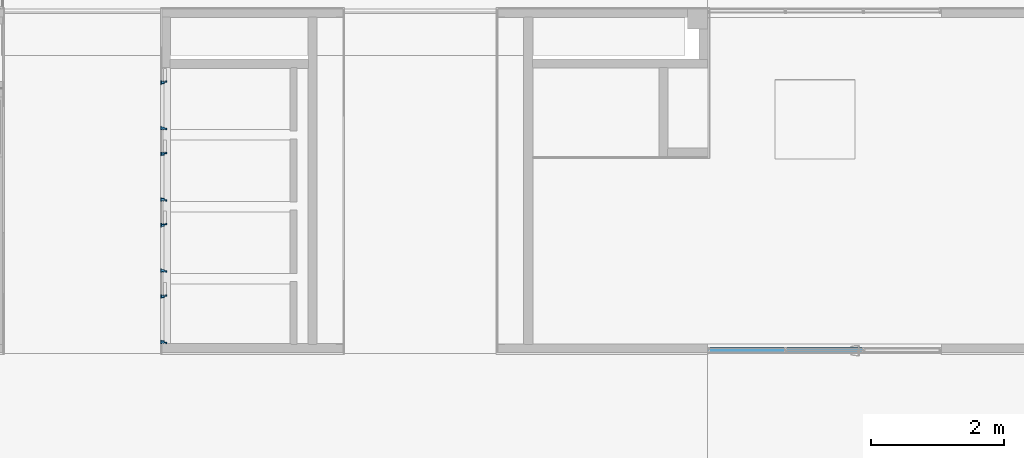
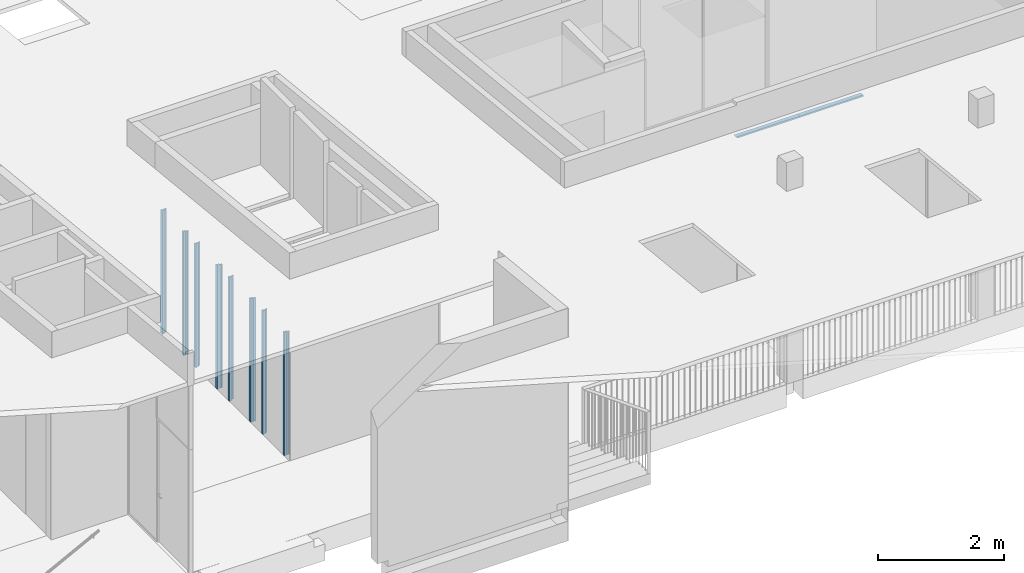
# One storey, part 4 of 43: 10 members, 2 elements without a shape of their own.
"""IFC2X3 building model written with IfcOpenShell, lengths in millimetres."""

from ifc_helpers import new_model, entity, si_unit, converted_unit, derived_unit, money_unit, direction, frame, origin_with_axes, place, context, subcontext, project, spatial, faceted_brep, source, transform, mapped, material, material_list, type_object, element, aggregate, save


model = new_model("IFC2X3")

# Units and contexts
model_context = context("Model", 3, precision=0.01, world=origin_with_axes(), true_north=direction((0.0, 1.0)))
body_context = subcontext(model_context, "Body", "Model", "MODEL_VIEW")
ifc_project = project(units=[si_unit("LENGTHUNIT", "METRE", prefix="MILLI"), si_unit("AREAUNIT", "SQUARE_METRE"), si_unit("VOLUMEUNIT", "CUBIC_METRE"), converted_unit("PLANEANGLEUNIT", "DEGREE", entity("IfcPlaneAngleMeasure", 0.0174532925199), si_unit("PLANEANGLEUNIT", "RADIAN"), dimensions=[0, 0, 0, 0, 0, 0, 0]), si_unit("SOLIDANGLEUNIT", "STERADIAN"), money_unit("EUR"), converted_unit("TIMEUNIT", "Year", entity("IfcTimeMeasure", 31556926.0), si_unit("TIMEUNIT", "SECOND"), dimensions=[0, 0, 1, 0, 0, 0, 0]), si_unit("MASSUNIT", "GRAM", prefix="KILO"), si_unit("THERMODYNAMICTEMPERATUREUNIT", "DEGREE_CELSIUS"), si_unit("LUMINOUSINTENSITYUNIT", "LUMEN"), si_unit("ENERGYUNIT", "JOULE", prefix="MEGA"), derived_unit("THERMALCONDUCTANCEUNIT", [(si_unit("POWERUNIT", "WATT"), 1), (si_unit("LENGTHUNIT", "METRE"), -1), (si_unit("THERMODYNAMICTEMPERATUREUNIT", "KELVIN"), -1)]), derived_unit("SPECIFICHEATCAPACITYUNIT", [(si_unit("ENERGYUNIT", "JOULE"), 1), (si_unit("MASSUNIT", "GRAM", prefix="KILO"), -1), (si_unit("THERMODYNAMICTEMPERATUREUNIT", "KELVIN"), -1)]), derived_unit("MASSDENSITYUNIT", [(si_unit("MASSUNIT", "GRAM", prefix="KILO"), 1), (si_unit("VOLUMEUNIT", "CUBIC_METRE"), -1)])], contexts=[model_context])

# Site, building, storey
site_placement = place(None, origin_with_axes())
site = spatial("IfcSite", under=ifc_project, at=site_placement, Name="L.Koidula tn 11b", CompositionType="ELEMENT")
building_placement = place(site_placement, origin_with_axes())
building = spatial("IfcBuilding", under=site, at=building_placement, Name="Rakvere Riigigümnaasium", CompositionType="ELEMENT")
storey_placement = place(building_placement, frame((0.0, 0.0, 6665.0), z_axis=(0.0, 0.0, 1.0), x_axis=(1.0, 0.0, 0.0)))
storey = spatial("IfcBuildingStorey", under=building, at=storey_placement, Name="3.korrus +6,66", CompositionType="ELEMENT", Elevation=6665.0)

# Curtain wall, members
curtain_wall_type = type_object("IfcCurtainWallType", Name="Curtain Wall Type", PredefinedType="NOTDEFINED")
curtain_wall_1_placement = place(storey_placement, frame((49969.604162, 20812.4526887, -4.66409044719e-06), z_axis=(0.0, 0.0, 1.0), x_axis=(1.0, 0.0, 0.0)))
curtain_wall_1 = element("IfcCurtainWall", 1, at=curtain_wall_1_placement, inside=storey, type_object=curtain_wall_type, Name="SUS-03")
ifc_material_1 = material(Name="MDF")
ifc_material_2 = material(Name="Alumiiniumprofiil")
ifc_material_list_1 = material_list([ifc_material_1, ifc_material_2])
member_type_1 = type_object("IfcMemberType", Name="SA-Siseuksesüsteem-IN-P 54 x 0", PredefinedType="MULLION")
shared_shape_1 = source(origin_with_axes(), body_context, "Body", "Brep", [
    faceted_brep([(-21.9954206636, 91.9999779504, 0.0), (-41.9523206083, 91.9999779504, 0.0), (-41.9523206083, 91.9999779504, 2400.0000468), (-21.9954206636, 91.9999779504, 2400.0000468), (-21.9954206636, 81.9999773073, 0.0), (-41.9523206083, 81.9999773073, 0.0), (-41.9523206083, 81.9999773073, 2400.0000468), (-21.9954206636, 81.9999773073, 2400.0000468)], [[[0, 1, 2, 3]], [[0, 4, 5, 1]], [[1, 5, 6, 2]], [[3, 2, 6, 7]], [[4, 0, 3, 7]], [[5, 4, 7, 6]]]),
    faceted_brep([(10.0045808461, 10.0000006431, 0.0), (-41.9523206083, 10.0000006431, 0.0), (-41.9523206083, 10.0000006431, 2400.0000468), (10.0045808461, 10.0000006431, 2400.0000468), (10.0045808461, 0.0, 0.0), (-41.9523206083, 0.0, 0.0), (-41.9523206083, 0.0, 2400.0000468), (10.0045808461, 0.0, 2400.0000468)], [[[0, 1, 2, 3]], [[0, 4, 5, 1]], [[1, 5, 6, 2]], [[3, 2, 6, 7]], [[4, 0, 3, 7]], [[5, 4, 7, 6]]]),
    faceted_brep([(-41.9523206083, 77.9999781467, 0.0), (-30.4523206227, 77.9999781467, 0.0), (-30.4523206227, 77.9999781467, 2400.0000468), (-41.9523206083, 77.9999781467, 2400.0000468), (-41.9523206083, 81.4999784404, 0.0), (-21.9954206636, 81.4999784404, 0.0), (-21.9954206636, 81.9999773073, 0.0), (-21.9954206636, 91.9999779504, 0.0), (-19.9954210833, 91.9999779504, 0.0), (-19.9954210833, 53.4999993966, 0.0), (0.0, 53.4999993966, 0.0), (0.0, 12.0000002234, 0.0), (12.0045790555, 12.0000002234, 0.0), (12.0045790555, 0.0, 0.0), (10.0045808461, 0.0, 0.0), (10.0045808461, 10.0000006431, 0.0), (10.0045794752, 10.4999775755, 0.0), (-41.9523206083, 10.4999775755, 0.0), (-41.9523206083, 13.9999778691, 0.0), (-30.4523206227, 13.9999778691, 0.0), (-30.4523206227, 44.3999777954, 0.0), (-41.9523206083, 44.3999777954, 0.0), (-41.9523206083, 47.5999782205, 0.0), (-30.4523206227, 47.5999782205, 0.0), (-30.4523206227, 47.5999782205, 2400.0000468), (-41.9523206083, 47.5999782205, 2400.0000468), (-41.9523206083, 44.3999777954, 2400.0000468), (-30.4523206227, 44.3999777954, 2400.0000468), (-30.4523206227, 13.9999778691, 2400.0000468), (-41.9523206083, 13.9999778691, 2400.0000468), (-41.9523206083, 10.4999775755, 2400.0000468), (10.0045794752, 10.4999775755, 2400.0000468), (10.0045808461, 10.0000006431, 2400.0000468), (10.0045808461, 0.0, 2400.0000468), (12.0045790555, 0.0, 2400.0000468), (12.0045790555, 12.0000002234, 2400.0000468), (0.0, 12.0000002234, 2400.0000468), (0.0, 53.4999993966, 2400.0000468), (-19.9954210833, 53.4999993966, 2400.0000468), (-19.9954210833, 91.9999779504, 2400.0000468), (-21.9954206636, 91.9999779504, 2400.0000468), (-21.9954206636, 81.9999773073, 2400.0000468), (-21.9954206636, 81.4999784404, 2400.0000468), (-41.9523206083, 81.4999784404, 2400.0000468)], [[[0, 1, 2, 3]], [[0, 4, 5, 6, 7, 8, 9, 10, 11, 12, 13, 14, 15, 16, 17, 18, 19, 20, 21, 22, 23, 1]], [[1, 23, 24, 2]], [[3, 2, 24, 25, 26, 27, 28, 29, 30, 31, 32, 33, 34, 35, 36, 37, 38, 39, 40, 41, 42, 43]], [[4, 0, 3, 43]], [[5, 4, 43, 42]], [[6, 5, 42, 41]], [[7, 6, 41, 40]], [[8, 7, 40, 39]], [[9, 8, 39, 38]], [[10, 9, 38, 37]], [[11, 10, 37, 36]], [[12, 11, 36, 35]], [[13, 12, 35, 34]], [[14, 13, 34, 33]], [[15, 14, 33, 32]], [[16, 15, 32, 31]], [[17, 16, 31, 30]], [[18, 17, 30, 29]], [[19, 18, 29, 28]], [[20, 19, 28, 27]], [[21, 20, 27, 26]], [[22, 21, 26, 25]], [[23, 22, 25, 24]]]),
])
member_1_placement = place(curtain_wall_1_placement, frame((0.0, 2465.0, 0.0), z_axis=(0.0, 0.0, 1.0), x_axis=(0.0, -1.0, 0.0)))
member_1 = element("IfcMember", 2, at=member_1_placement, type_object=member_type_1, material=ifc_material_list_1, Name="Frame-SA-Siseuks-018", ObjectType="MULLION", context=body_context, shape_type="MappedRepresentation", body=[
    mapped(shared_shape_1, transform((0.0, 0.0, 0.0))),
])
member_2_placement = place(curtain_wall_1_placement, frame((0.0, 1395.0, 0.0), z_axis=(0.0, 0.0, 1.0), x_axis=(0.0, -1.0, 0.0)))
member_2 = element("IfcMember", 3, at=member_2_placement, type_object=member_type_1, material=ifc_material_list_1, Name="Frame-SA-Siseuks-018", ObjectType="MULLION", context=body_context, shape_type="MappedRepresentation", body=[
    mapped(shared_shape_1, transform((0.0, 0.0, 0.0))),
])
member_3_placement = place(curtain_wall_1_placement, frame((0.0, 325.0, 0.0), z_axis=(0.0, 0.0, 1.0), x_axis=(0.0, -1.0, 0.0)))
member_3 = element("IfcMember", 4, at=member_3_placement, type_object=member_type_1, material=ifc_material_list_1, Name="Frame-SA-Siseuks-018", ObjectType="MULLION", context=body_context, shape_type="MappedRepresentation", body=[
    mapped(shared_shape_1, transform((0.0, 0.0, 0.0))),
])
member_4_placement = place(curtain_wall_1_placement, frame((0.0, -745.0, 0.0), z_axis=(0.0, 0.0, 1.0), x_axis=(0.0, -1.0, 0.0)))
member_4 = element("IfcMember", 5, at=member_4_placement, type_object=member_type_1, material=ifc_material_list_1, Name="Frame-SA-Siseuks-018", ObjectType="MULLION", context=body_context, shape_type="MappedRepresentation", body=[
    mapped(shared_shape_1, transform((0.0, 0.0, 0.0))),
])
member_type_2 = type_object("IfcMemberType", Name="SA-Siseuksesüsteem-OUT-V 54 x 0", PredefinedType="MULLION")
shared_shape_2 = source(origin_with_axes(), body_context, "Body", "Brep", [
    faceted_brep([(21.9954206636, 81.9999773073, 0.0), (41.9523206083, 81.9999773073, 0.0), (41.9523206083, 81.9999773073, 2400.0000468), (21.9954206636, 81.9999773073, 2400.0000468), (21.9954206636, 91.9999779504, 0.0), (41.9523206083, 91.9999779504, 0.0), (41.9523206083, 91.9999779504, 2400.0000468), (21.9954206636, 91.9999779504, 2400.0000468)], [[[0, 1, 2, 3]], [[0, 4, 5, 1]], [[1, 5, 6, 2]], [[3, 2, 6, 7]], [[4, 0, 3, 7]], [[5, 4, 7, 6]]]),
    faceted_brep([(-10.0045808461, 10.0000006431, 0.0), (-10.0045808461, 0.0, 0.0), (-10.0045808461, 0.0, 2400.0000468), (-10.0045808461, 10.0000006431, 2400.0000468), (41.9523206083, 10.0000006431, 0.0), (41.9523206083, 0.0, 0.0), (41.9523206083, 0.0, 2400.0000468), (41.9523206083, 10.0000006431, 2400.0000468)], [[[0, 1, 2, 3]], [[0, 4, 5, 1]], [[1, 5, 6, 2]], [[3, 2, 6, 7]], [[4, 0, 3, 7]], [[5, 4, 7, 6]]]),
    faceted_brep([(41.9523206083, 77.9999781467, 0.0), (41.9523206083, 81.4999784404, 0.0), (41.9523206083, 81.4999784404, 2400.0000468), (41.9523206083, 77.9999781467, 2400.0000468), (30.4523206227, 77.9999781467, 0.0), (30.4523206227, 47.5999782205, 0.0), (41.9523206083, 47.5999782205, 0.0), (41.9523206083, 44.3999777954, 0.0), (30.4523206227, 44.3999777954, 0.0), (30.4523206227, 13.9999778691, 0.0), (41.9523206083, 13.9999778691, 0.0), (41.9523206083, 10.4999775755, 0.0), (-10.0045794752, 10.4999775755, 0.0), (-10.0045808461, 10.0000006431, 0.0), (-10.0045808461, 0.0, 0.0), (-12.0045790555, 0.0, 0.0), (-12.0045790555, 12.0000002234, 0.0), (0.0, 12.0000002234, 0.0), (0.0, 53.4999993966, 0.0), (19.9954210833, 53.4999993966, 0.0), (19.9954210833, 91.9999779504, 0.0), (21.9954206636, 91.9999779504, 0.0), (21.9954206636, 81.9999773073, 0.0), (21.9954206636, 81.4999784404, 0.0), (21.9954206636, 81.4999784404, 2400.0000468), (21.9954206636, 81.9999773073, 2400.0000468), (21.9954206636, 91.9999779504, 2400.0000468), (19.9954210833, 91.9999779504, 2400.0000468), (19.9954210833, 53.4999993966, 2400.0000468), (0.0, 53.4999993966, 2400.0000468), (0.0, 12.0000002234, 2400.0000468), (-12.0045790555, 12.0000002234, 2400.0000468), (-12.0045790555, 0.0, 2400.0000468), (-10.0045808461, 0.0, 2400.0000468), (-10.0045808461, 10.0000006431, 2400.0000468), (-10.0045794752, 10.4999775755, 2400.0000468), (41.9523206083, 10.4999775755, 2400.0000468), (41.9523206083, 13.9999778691, 2400.0000468), (30.4523206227, 13.9999778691, 2400.0000468), (30.4523206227, 44.3999777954, 2400.0000468), (41.9523206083, 44.3999777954, 2400.0000468), (41.9523206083, 47.5999782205, 2400.0000468), (30.4523206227, 47.5999782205, 2400.0000468), (30.4523206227, 77.9999781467, 2400.0000468)], [[[0, 1, 2, 3]], [[0, 4, 5, 6, 7, 8, 9, 10, 11, 12, 13, 14, 15, 16, 17, 18, 19, 20, 21, 22, 23, 1]], [[1, 23, 24, 2]], [[3, 2, 24, 25, 26, 27, 28, 29, 30, 31, 32, 33, 34, 35, 36, 37, 38, 39, 40, 41, 42, 43]], [[4, 0, 3, 43]], [[5, 4, 43, 42]], [[6, 5, 42, 41]], [[7, 6, 41, 40]], [[8, 7, 40, 39]], [[9, 8, 39, 38]], [[10, 9, 38, 37]], [[11, 10, 37, 36]], [[12, 11, 36, 35]], [[13, 12, 35, 34]], [[14, 13, 34, 33]], [[15, 14, 33, 32]], [[16, 15, 32, 31]], [[17, 16, 31, 30]], [[18, 17, 30, 29]], [[19, 18, 29, 28]], [[20, 19, 28, 27]], [[21, 20, 27, 26]], [[22, 21, 26, 25]], [[23, 22, 25, 24]]]),
])
member_5_placement = place(curtain_wall_1_placement, frame((0.0, 1815.0, 0.0), z_axis=(0.0, 0.0, 1.0), x_axis=(0.0, -1.0, 0.0)))
member_5 = element("IfcMember", 6, at=member_5_placement, type_object=member_type_2, material=ifc_material_list_1, Name="Frame-New-Frame-018", ObjectType="MULLION", context=body_context, shape_type="MappedRepresentation", body=[
    mapped(shared_shape_2, transform((0.0, 0.0, 0.0))),
])
member_6_placement = place(curtain_wall_1_placement, frame((0.0, 745.0, 0.0), z_axis=(0.0, 0.0, 1.0), x_axis=(0.0, -1.0, 0.0)))
member_6 = element("IfcMember", 7, at=member_6_placement, type_object=member_type_2, material=ifc_material_list_1, Name="Frame-New-Frame-019", ObjectType="MULLION", context=body_context, shape_type="MappedRepresentation", body=[
    mapped(shared_shape_2, transform((0.0, 0.0, 0.0))),
])
member_7_placement = place(curtain_wall_1_placement, frame((0.0, -325.0, 0.0), z_axis=(0.0, 0.0, 1.0), x_axis=(0.0, -1.0, 0.0)))
member_7 = element("IfcMember", 8, at=member_7_placement, type_object=member_type_2, material=ifc_material_list_1, Name="Frame-New-Frame-020", ObjectType="MULLION", context=body_context, shape_type="MappedRepresentation", body=[
    mapped(shared_shape_2, transform((0.0, 0.0, 0.0))),
])
member_type_3 = type_object("IfcMemberType", Name="SA-Siseuksesüsteem-OUT-V 54 x -10", PredefinedType="MULLION")
member_8_placement = place(curtain_wall_1_placement, frame((0.0, -1395.01298143, 0.0), z_axis=(0.0, 0.0, 1.0), x_axis=(0.0, -1.0, 0.0)))
member_8 = element("IfcMember", 9, at=member_8_placement, type_object=member_type_3, material=ifc_material_list_1, Name="Frame-New-Frame-018", ObjectType="MULLION", context=body_context, shape_type="MappedRepresentation", body=[
    mapped(shared_shape_2, transform((0.0, 0.0, 0.0))),
])
aggregate(curtain_wall_1, [member_1, member_5, member_2, member_6, member_3, member_7, member_4, member_8])

curtain_wall_2_placement = place(storey_placement, frame((58878.6347232, 19272.4397072, 0.0), z_axis=(0.0, 0.0, 1.0), x_axis=(1.0, 0.0, 0.0)))
curtain_wall_2 = element("IfcCurtainWall", 10, at=curtain_wall_2_placement, inside=storey, type_object=curtain_wall_type, Name="SKLF-29")
ifc_material_3 = material(Name="Klaasvill")
ifc_material_4 = material(Name="Teras RAL7012")
ifc_material_list_2 = material_list([ifc_material_3, ifc_material_4])
member_type_4 = type_object("IfcMemberType", Name="Boundary Frame 30 x 42", PredefinedType="MULLION")
shared_shape_3 = source(origin_with_axes(), body_context, "Body", "Brep", [
    faceted_brep([(-13.8499999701, 15.000000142, 13.8499999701), (-7.49999990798, 15.000000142, 7.49999990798), (-7.49999990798, 15.000000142, 1170.0), (-13.8499999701, 15.000000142, 1170.0), (-13.8499999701, 29.0161444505, 13.8499999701), (-7.49999990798, 29.0161444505, 7.49999990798), (-7.49999990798, 29.0161444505, 1170.0), (-13.8499999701, 29.0161444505, 1170.0)], [[[0, 1, 2, 3]], [[1, 0, 4, 5]], [[1, 5, 6, 2]], [[2, 6, 7, 3]], [[4, 0, 3, 7]], [[5, 4, 7, 6]]]),
    faceted_brep([(-25.004489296, 27.0307503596, 25.004489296), (-24.987414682, 29.0161444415, 24.987414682), (-24.987414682, 29.0161444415, 1170.0), (-25.004489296, 27.0307503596, 1170.0), (-25.742237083, 26.2930025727, 25.742237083), (-26.7500193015, 26.0229681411, 26.7500193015), (-27.75780152, 26.2930025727, 27.75780152), (-28.4955493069, 27.0307503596, 28.4955493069), (-28.7655837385, 28.0385325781, 28.7655837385), (-28.5126239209, 29.0161444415, 28.5126239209), (-28.5126239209, 29.0161444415, 1170.0), (-28.7655837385, 28.0385325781, 1170.0), (-28.4955493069, 27.0307503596, 1170.0), (-27.75780152, 26.2930025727, 1170.0), (-26.7500193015, 26.0229681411, 1170.0), (-25.742237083, 26.2930025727, 1170.0)], [[[0, 1, 2, 3]], [[1, 0, 4, 5, 6, 7, 8, 9]], [[1, 9, 10, 2]], [[2, 10, 11, 12, 13, 14, 15, 3]], [[4, 0, 3, 15]], [[5, 4, 15, 14]], [[6, 5, 14, 13]], [[7, 6, 13, 12]], [[8, 7, 12, 11]], [[9, 8, 11, 10]]]),
    faceted_brep([(-7.49999990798, -39.0161445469, 7.49999990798), (-7.49999990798, -24.9999997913, 7.49999990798), (-7.49999990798, -24.9999997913, 1170.0), (-7.49999990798, -39.0161445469, 1170.0), (-13.8499999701, -39.0161445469, 13.8499999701), (-13.8499999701, -24.9999997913, 13.8499999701), (-13.8499999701, -24.9999997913, 1170.0), (-13.8499999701, -39.0161445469, 1170.0)], [[[0, 1, 2, 3]], [[1, 0, 4, 5]], [[1, 5, 6, 2]], [[2, 6, 7, 3]], [[4, 0, 3, 7]], [[5, 4, 7, 6]]]),
    faceted_brep([(-24.987414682, -39.0161444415, 24.987414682), (-25.004489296, -37.0307503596, 25.004489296), (-25.004489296, -37.0307503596, 1170.0), (-24.987414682, -39.0161444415, 1170.0), (-28.5126239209, -39.0161444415, 28.5126239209), (-28.7655837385, -38.0385325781, 28.7655837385), (-28.4955493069, -37.0307503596, 28.4955493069), (-27.75780152, -36.2930025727, 27.75780152), (-26.7500193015, -36.0229681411, 26.7500193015), (-25.742237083, -36.2930025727, 25.742237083), (-25.742237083, -36.2930025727, 1170.0), (-26.7500193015, -36.0229681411, 1170.0), (-27.75780152, -36.2930025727, 1170.0), (-28.4955493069, -37.0307503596, 1170.0), (-28.7655837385, -38.0385325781, 1170.0), (-28.5126239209, -39.0161444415, 1170.0)], [[[0, 1, 2, 3]], [[1, 0, 4, 5, 6, 7, 8, 9]], [[1, 9, 10, 2]], [[2, 10, 11, 12, 13, 14, 15, 3]], [[4, 0, 3, 15]], [[5, 4, 15, 14]], [[6, 5, 14, 13]], [[7, 6, 13, 12]], [[8, 7, 12, 11]], [[9, 8, 11, 10]]]),
    faceted_brep([(-29.5999996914, -22.0000000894, 29.5999996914), (0.0, -22.0000000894, 0.0), (0.0, -22.0000000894, 1170.0), (-29.5999996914, -22.0000000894, 1170.0), (-29.5999996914, 12.0000000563, 29.5999996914), (0.0, 12.0000000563, 0.0), (-1.9999999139, 10.0000001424, 1.9999999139), (-18.7999996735, 10.0000001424, 18.7999996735), (-18.7999996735, -20.0000001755, 18.7999996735), (-1.9999999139, -20.0000001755, 1.9999999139), (0.0, 12.0000000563, 1170.0), (-29.5999996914, 12.0000000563, 1170.0), (-1.9999999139, 10.0000001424, 1170.0), (-1.9999999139, -20.0000001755, 1170.0), (-18.7999996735, -20.0000001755, 1170.0), (-18.7999996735, 10.0000001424, 1170.0)], [[[0, 1, 2, 3]], [[1, 0, 4, 5], [6, 7, 8, 9]], [[1, 5, 10, 2]], [[2, 10, 11, 3], [12, 13, 14, 15]], [[4, 0, 3, 11]], [[5, 4, 11, 10]], [[7, 6, 12, 15]], [[8, 7, 15, 14]], [[9, 8, 14, 13]], [[6, 9, 13, 12]]]),
    faceted_brep([(-29.5999996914, 12.0000000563, 29.5999996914), (0.0, 12.0, 0.0), (0.0, 12.0, 1170.0), (-29.5999996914, 12.0000000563, 1170.0), (-30.0000193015, 12.0, 30.0000193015), (-30.0000193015, 15.0, 30.0000193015), (-13.8499999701, 15.000000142, 13.8499999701), (-7.49999999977, 15.0, 7.49999999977), (-7.49999999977, 29.0161444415, 7.49999999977), (-13.8499999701, 29.0161444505, 13.8499999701), (-24.987414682, 29.0161444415, 24.987414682), (-28.5126239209, 29.0161444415, 28.5126239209), (-30.0000193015, 29.0161444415, 30.0000193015), (-30.0000193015, 32.0, 30.0000193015), (0.0, 32.0, 0.0), (0.0, 32.0, 1170.0), (-30.0000193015, 32.0, 1170.0), (-30.0000193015, 29.0161444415, 1170.0), (-28.5126239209, 29.0161444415, 1170.0), (-24.987414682, 29.0161444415, 1170.0), (-13.8499999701, 29.0161444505, 1170.0), (-7.49999999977, 29.0161444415, 1170.0), (-7.49999999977, 15.0, 1170.0), (-13.8499999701, 15.000000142, 1170.0), (-30.0000193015, 15.0, 1170.0), (-30.0000193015, 12.0, 1170.0)], [[[0, 1, 2, 3]], [[1, 0, 4, 5, 6, 7, 8, 9, 10, 11, 12, 13, 14]], [[1, 14, 15, 2]], [[2, 15, 16, 17, 18, 19, 20, 21, 22, 23, 24, 25, 3]], [[4, 0, 3, 25]], [[5, 4, 25, 24]], [[6, 5, 24, 23]], [[7, 6, 23, 22]], [[8, 7, 22, 21]], [[9, 8, 21, 20]], [[10, 9, 20, 19]], [[11, 10, 19, 18]], [[12, 11, 18, 17]], [[13, 12, 17, 16]], [[14, 13, 16, 15]]]),
    faceted_brep([(0.0, -42.0, 0.0), (0.0, -22.0, 0.0), (0.0, -22.0, 1170.0), (0.0, -42.0, 1170.0), (-30.0000193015, -42.0, 30.0000193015), (-30.0000193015, -39.0161444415, 30.0000193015), (-28.5126239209, -39.0161444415, 28.5126239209), (-24.987414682, -39.0161444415, 24.987414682), (-13.8499999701, -39.0161445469, 13.8499999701), (-7.49999999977, -39.0161444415, 7.49999999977), (-7.49999999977, -25.0, 7.49999999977), (-13.8499999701, -24.9999997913, 13.8499999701), (-30.0000193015, -25.0, 30.0000193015), (-30.0000193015, -22.0, 30.0000193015), (-29.5999996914, -22.0000000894, 29.5999996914), (-29.5999996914, -22.0000000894, 1170.0), (-30.0000193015, -22.0, 1170.0), (-30.0000193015, -25.0, 1170.0), (-13.8499999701, -24.9999997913, 1170.0), (-7.49999999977, -25.0, 1170.0), (-7.49999999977, -39.0161444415, 1170.0), (-13.8499999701, -39.0161445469, 1170.0), (-24.987414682, -39.0161444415, 1170.0), (-28.5126239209, -39.0161444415, 1170.0), (-30.0000193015, -39.0161444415, 1170.0), (-30.0000193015, -42.0, 1170.0)], [[[0, 1, 2, 3]], [[1, 0, 4, 5, 6, 7, 8, 9, 10, 11, 12, 13, 14]], [[1, 14, 15, 2]], [[2, 15, 16, 17, 18, 19, 20, 21, 22, 23, 24, 25, 3]], [[4, 0, 3, 25]], [[5, 4, 25, 24]], [[6, 5, 24, 23]], [[7, 6, 23, 22]], [[8, 7, 22, 21]], [[9, 8, 21, 20]], [[10, 9, 20, 19]], [[11, 10, 19, 18]], [[12, 11, 18, 17]], [[13, 12, 17, 16]], [[14, 13, 16, 15]]]),
])
member_9_placement = place(curtain_wall_2_placement, frame((-698.599998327, 0.0, 3400.0), z_axis=(1.0, 0.0, 0.0), x_axis=(0.0, 0.0, 1.0)))
member_9 = element("IfcMember", 11, at=member_9_placement, type_object=member_type_4, material=ifc_material_list_2, Name="SKLF-34-raam", ObjectType="MULLION", context=body_context, shape_type="MappedRepresentation", body=[
    mapped(shared_shape_3, transform((0.0, 0.0, 0.0))),
])
shared_shape_4 = source(origin_with_axes(), body_context, "Body", "Brep", [
    faceted_brep([(-7.49999990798, 15.000000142, 0.0), (-7.49999990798, 15.000000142, 1170.0), (-13.8499999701, 15.000000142, 1170.0), (-13.8499999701, 15.000000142, 0.0), (-7.49999990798, 29.0161444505, 0.0), (-7.49999990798, 29.0161444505, 1170.0), (-13.8499999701, 29.0161444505, 1170.0), (-13.8499999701, 29.0161444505, 0.0)], [[[0, 1, 2, 3]], [[4, 5, 1, 0]], [[1, 5, 6, 2]], [[3, 2, 6, 7]], [[0, 3, 7, 4]], [[7, 6, 5, 4]]]),
    faceted_brep([(-24.987414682, 29.0161444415, 0.0), (-24.987414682, 29.0161444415, 1170.0), (-25.004489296, 27.0307503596, 1170.0), (-25.004489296, 27.0307503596, 0.0), (-28.5126239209, 29.0161444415, 0.0), (-28.5126239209, 29.0161444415, 1170.0), (-28.7655837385, 28.0385325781, 1170.0), (-28.4955493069, 27.0307503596, 1170.0), (-27.75780152, 26.2930025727, 1170.0), (-26.7500193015, 26.0229681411, 1170.0), (-25.742237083, 26.2930025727, 1170.0), (-25.742237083, 26.2930025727, 0.0), (-26.7500193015, 26.0229681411, 0.0), (-27.75780152, 26.2930025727, 0.0), (-28.4955493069, 27.0307503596, 0.0), (-28.7655837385, 28.0385325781, 0.0)], [[[0, 1, 2, 3]], [[4, 5, 1, 0]], [[1, 5, 6, 7, 8, 9, 10, 2]], [[3, 2, 10, 11]], [[0, 3, 11, 12, 13, 14, 15, 4]], [[15, 6, 5, 4]], [[14, 7, 6, 15]], [[13, 8, 7, 14]], [[12, 9, 8, 13]], [[11, 10, 9, 12]]]),
    faceted_brep([(-7.49999990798, -24.9999997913, 0.0), (-7.49999990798, -24.9999997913, 1170.0), (-7.49999990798, -39.0161445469, 1170.0), (-7.49999990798, -39.0161445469, 0.0), (-13.8499999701, -24.9999997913, 0.0), (-13.8499999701, -24.9999997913, 1170.0), (-13.8499999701, -39.0161445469, 1170.0), (-13.8499999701, -39.0161445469, 0.0)], [[[0, 1, 2, 3]], [[4, 5, 1, 0]], [[1, 5, 6, 2]], [[3, 2, 6, 7]], [[0, 3, 7, 4]], [[7, 6, 5, 4]]]),
    faceted_brep([(-25.004489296, -37.0307503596, 0.0), (-25.004489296, -37.0307503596, 1170.0), (-24.987414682, -39.0161444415, 1170.0), (-24.987414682, -39.0161444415, 0.0), (-25.742237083, -36.2930025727, 0.0), (-25.742237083, -36.2930025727, 1170.0), (-26.7500193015, -36.0229681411, 1170.0), (-27.75780152, -36.2930025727, 1170.0), (-28.4955493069, -37.0307503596, 1170.0), (-28.7655837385, -38.0385325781, 1170.0), (-28.5126239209, -39.0161444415, 1170.0), (-28.5126239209, -39.0161444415, 0.0), (-28.7655837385, -38.0385325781, 0.0), (-28.4955493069, -37.0307503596, 0.0), (-27.75780152, -36.2930025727, 0.0), (-26.7500193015, -36.0229681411, 0.0)], [[[0, 1, 2, 3]], [[4, 5, 1, 0]], [[1, 5, 6, 7, 8, 9, 10, 2]], [[3, 2, 10, 11]], [[0, 3, 11, 12, 13, 14, 15, 4]], [[15, 6, 5, 4]], [[14, 7, 6, 15]], [[13, 8, 7, 14]], [[12, 9, 8, 13]], [[11, 10, 9, 12]]]),
    faceted_brep([(0.0, -22.0000000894, 0.0), (0.0, -22.0000000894, 1170.0), (-29.5999996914, -22.0000000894, 1170.0), (-29.5999996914, -22.0000000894, 0.0), (0.0, 12.0000000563, 0.0), (0.0, 12.0000000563, 1170.0), (-29.5999996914, 12.0000000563, 1170.0), (-1.9999999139, 10.0000001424, 1170.0), (-1.9999999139, -20.0000001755, 1170.0), (-18.7999996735, -20.0000001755, 1170.0), (-18.7999996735, 10.0000001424, 1170.0), (-29.5999996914, 12.0000000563, 0.0), (-1.9999999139, 10.0000001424, 0.0), (-18.7999996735, 10.0000001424, 0.0), (-18.7999996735, -20.0000001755, 0.0), (-1.9999999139, -20.0000001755, 0.0)], [[[0, 1, 2, 3]], [[4, 5, 1, 0]], [[1, 5, 6, 2], [7, 8, 9, 10]], [[3, 2, 6, 11]], [[0, 3, 11, 4], [12, 13, 14, 15]], [[11, 6, 5, 4]], [[15, 8, 7, 12]], [[14, 9, 8, 15]], [[13, 10, 9, 14]], [[12, 7, 10, 13]]]),
    faceted_brep([(0.0, 12.0, 0.0), (0.0, 12.0, 1170.0), (-29.5999996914, 12.0000000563, 1170.0), (-29.5999996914, 12.0000000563, 0.0), (0.0, 32.0, 0.0), (0.0, 32.0, 1170.0), (-30.0000193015, 32.0, 1170.0), (-30.0000193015, 29.0161444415, 1170.0), (-28.5126239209, 29.0161444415, 1170.0), (-24.987414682, 29.0161444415, 1170.0), (-13.8499999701, 29.0161444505, 1170.0), (-7.49999999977, 29.0161444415, 1170.0), (-7.49999999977, 15.0, 1170.0), (-13.8499999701, 15.000000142, 1170.0), (-30.0000193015, 15.0, 1170.0), (-30.0000193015, 12.0, 1170.0), (-30.0000193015, 12.0, 0.0), (-30.0000193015, 15.0, 0.0), (-13.8499999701, 15.000000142, 0.0), (-7.49999999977, 15.0, 0.0), (-7.49999999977, 29.0161444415, 0.0), (-13.8499999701, 29.0161444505, 0.0), (-24.987414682, 29.0161444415, 0.0), (-28.5126239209, 29.0161444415, 0.0), (-30.0000193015, 29.0161444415, 0.0), (-30.0000193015, 32.0, 0.0)], [[[0, 1, 2, 3]], [[4, 5, 1, 0]], [[1, 5, 6, 7, 8, 9, 10, 11, 12, 13, 14, 15, 2]], [[3, 2, 15, 16]], [[0, 3, 16, 17, 18, 19, 20, 21, 22, 23, 24, 25, 4]], [[25, 6, 5, 4]], [[24, 7, 6, 25]], [[23, 8, 7, 24]], [[22, 9, 8, 23]], [[21, 10, 9, 22]], [[20, 11, 10, 21]], [[19, 12, 11, 20]], [[18, 13, 12, 19]], [[17, 14, 13, 18]], [[16, 15, 14, 17]]]),
    faceted_brep([(0.0, -22.0, 0.0), (0.0, -22.0, 1170.0), (0.0, -42.0, 1170.0), (0.0, -42.0, 0.0), (-29.5999996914, -22.0000000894, 0.0), (-29.5999996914, -22.0000000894, 1170.0), (-30.0000193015, -22.0, 1170.0), (-30.0000193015, -25.0, 1170.0), (-13.8499999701, -24.9999997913, 1170.0), (-7.49999999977, -25.0, 1170.0), (-7.49999999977, -39.0161444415, 1170.0), (-13.8499999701, -39.0161445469, 1170.0), (-24.987414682, -39.0161444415, 1170.0), (-28.5126239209, -39.0161444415, 1170.0), (-30.0000193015, -39.0161444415, 1170.0), (-30.0000193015, -42.0, 1170.0), (-30.0000193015, -42.0, 0.0), (-30.0000193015, -39.0161444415, 0.0), (-28.5126239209, -39.0161444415, 0.0), (-24.987414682, -39.0161444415, 0.0), (-13.8499999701, -39.0161445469, 0.0), (-7.49999999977, -39.0161444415, 0.0), (-7.49999999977, -25.0, 0.0), (-13.8499999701, -24.9999997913, 0.0), (-30.0000193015, -25.0, 0.0), (-30.0000193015, -22.0, 0.0)], [[[0, 1, 2, 3]], [[4, 5, 1, 0]], [[1, 5, 6, 7, 8, 9, 10, 11, 12, 13, 14, 15, 2]], [[3, 2, 15, 16]], [[0, 3, 16, 17, 18, 19, 20, 21, 22, 23, 24, 25, 4]], [[25, 6, 5, 4]], [[24, 7, 6, 25]], [[23, 8, 7, 24]], [[22, 9, 8, 23]], [[21, 10, 9, 22]], [[20, 11, 10, 21]], [[19, 12, 11, 20]], [[18, 13, 12, 19]], [[17, 14, 13, 18]], [[16, 15, 14, 17]]]),
])
member_10_placement = place(curtain_wall_2_placement, frame((471.400001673, 0.0, 3400.0), z_axis=(1.0, 0.0, 0.0), x_axis=(0.0, 0.0, 1.0)))
member_10 = element("IfcMember", 12, at=member_10_placement, type_object=member_type_4, material=ifc_material_list_2, Name="SKLF-33-raam", ObjectType="MULLION", context=body_context, shape_type="MappedRepresentation", body=[
    mapped(shared_shape_4, transform((0.0, 0.0, 0.0))),
])
aggregate(curtain_wall_2, [member_9, member_10])

save(model, "model.ifc")
